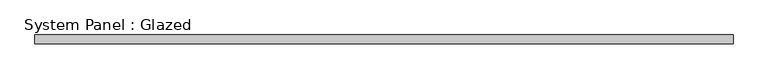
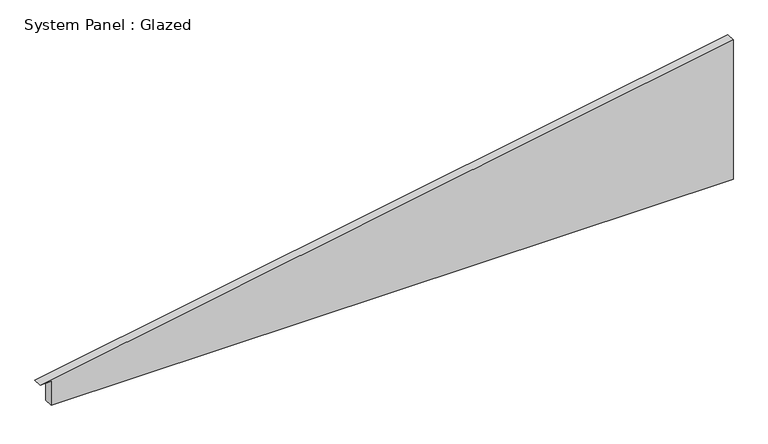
"""IFC4 building model written with IfcOpenShell, lengths in millimetres: plate geometry, System Panel : Glazed."""

from ifc_helpers import new_model, si_unit, frame, origin, place, context, project, spatial, polyline, outline, extrude, source, transform, mapped, element, save


def system_panel_glazed_373d86ac(model_context):
    return source(origin(), model_context, "Body", "SweptSolid", [
        extrude(outline(polyline([(0.0, -962.025), (0.0, 993.775), (422.3425111, 993.775), (71.8838206, -993.775), (71.8838206, -962.025), (0.0, -962.025)])), frame((0.0, -44.45, 0.0), z_axis=(0.0, 1.0, 0.0), x_axis=(0.0, 0.0, 1.0)), (0.0, 0.0, 1.0), 25.4),
    ])


if __name__ == "__main__":
    model = new_model("IFC4")
    model_context = context("Model", 3, world=origin())
    ifc_project = project(units=[si_unit("LENGTHUNIT", "METRE", prefix="MILLI")], contexts=[model_context])
    site = spatial("IfcSite", under=ifc_project)
    building = spatial("IfcBuilding", under=site)
    placement = place(None, origin())
    system_panel_glazed_shape = system_panel_glazed_373d86ac(model_context)
    element("IfcPlate", 1, ObjectType="System Panel : Glazed", at=placement, inside=building, context=model_context, shape_type="MappedRepresentation", body=[
        mapped(system_panel_glazed_shape, transform((0.0, 0.0, 0.0), x_axis=(1.0, 0.0, 0.0), y_axis=(0.0, 1.0, 0.0), z_axis=(0.0, 0.0, 1.0))),
    ])
    save(model, "model.ifc")
